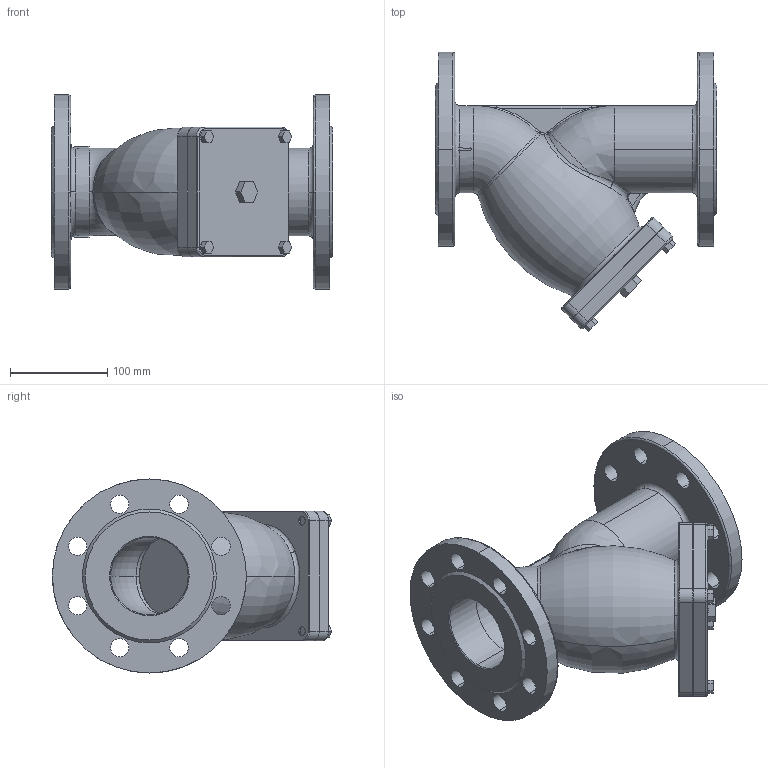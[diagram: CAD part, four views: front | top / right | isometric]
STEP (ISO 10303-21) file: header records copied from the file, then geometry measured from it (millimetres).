
FILE_DESCRIPTION (( 'STEP AP203' ), '1' );
FILE_NAME ('F3240-DN80.STEP', '2017-04-23T07:01:20', ( 'User' ), ( 'shendu' ), 'SwSTEP 2.0', 'SolidWorks 2015', '' );
FILE_SCHEMA (( 'CONFIG_CONTROL_DESIGN' ));
Length unit declared in the file: millimetre
Products named in the file (1): F3240-DN80
Bounding box: 290 x 287.89 x 200 mm (x, y, z)
Volume: 2620099.8 mm3; surface area: 481968 mm2
Topology: 10 solids, 10 shells, 406 faces, 999 edges, 611 vertices
Faces by surface type: cylinder 147, bspline 109, plane 108, torus 31, cone 11
Entity records: 25849 total; most frequent: CARTESIAN_POINT 16996, ORIENTED_EDGE 1960, DIRECTION 1562, EDGE_CURVE 980, AXIS2_PLACEMENT_3D 620, VERTEX_POINT 611, EDGE_LOOP 481, ADVANCED_FACE 406
